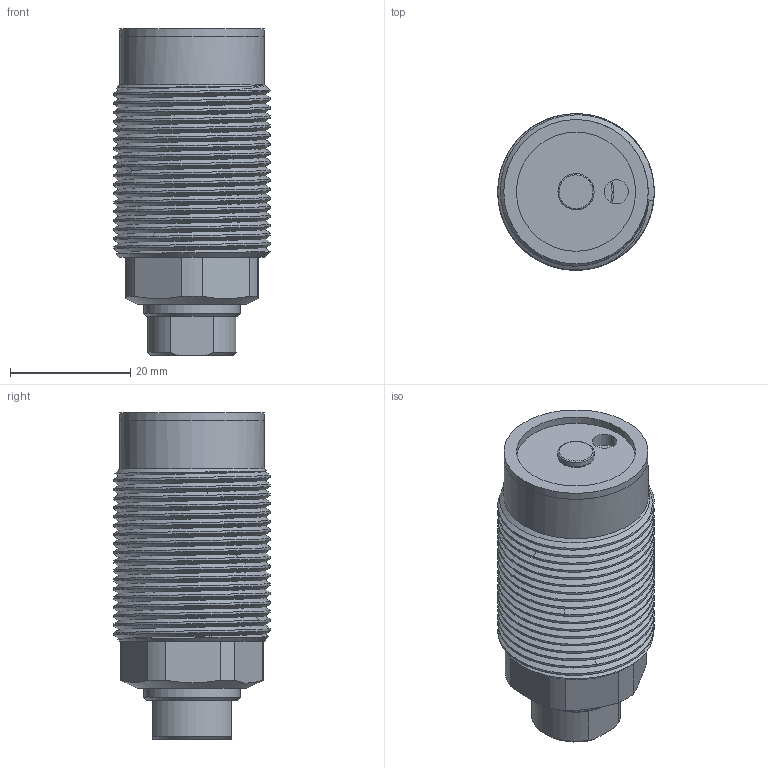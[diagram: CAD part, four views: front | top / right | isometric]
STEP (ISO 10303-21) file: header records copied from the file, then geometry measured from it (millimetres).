
FILE_DESCRIPTION(/* description */ (''),/* implementation_level */ '2;1');
FILE_NAME(/* name */ 'CTC-16B.stp',/* time_stamp */ '2022-04-28T11:03:04+08:00',/* author */ (''),/* organization */ (''),/* preprocessor_version */ 'ST-DEVELOPER v16.7',/* originating_system */ 'SIEMENS PLM Software NX 12.0',/* authorisation */ '');
FILE_SCHEMA (('AUTOMOTIVE_DESIGN { 1 0 10303 214 3 1 1 1 }'));
Length unit declared in the file: millimetre
Products named in the file (1): CTC-16B
Bounding box: 26 x 26 x 54.3 mm (x, y, z)
Volume: 18479.7 mm3; surface area: 14804.4 mm2
Topology: 5 solids, 5 shells, 282 faces, 735 edges, 489 vertices
Faces by surface type: plane 161, extrusion 56, cylinder 37, bspline 16, cone 10, torus 2
Full cylindrical faces by diameter (mm): 4 x3, 5 x6, 6 x1, 7 x1, 12 x1, 12.5 x1, 15 x1, 16 x2, 18.7 x1, 19.2 x1, 19.8 x1, 20.2 x1, 20.6 x1, 24 x2
Entity records: 16040 total; most frequent: CARTESIAN_POINT 8357, ORIENTED_EDGE 1362, DIRECTION 1040, EDGE_CURVE 681, VECTOR 494, VERTEX_POINT 469, LINE 438, EDGE_LOOP 335
